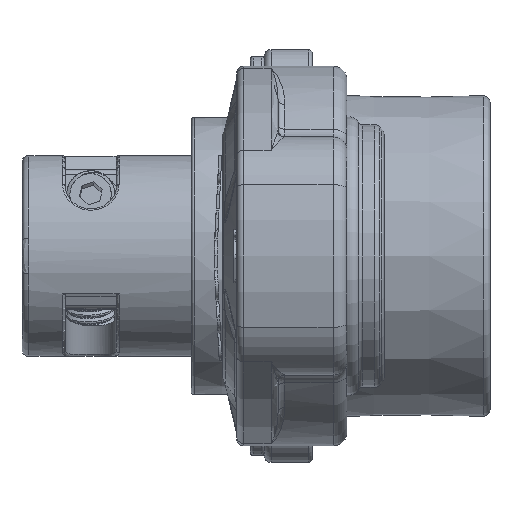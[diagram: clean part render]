
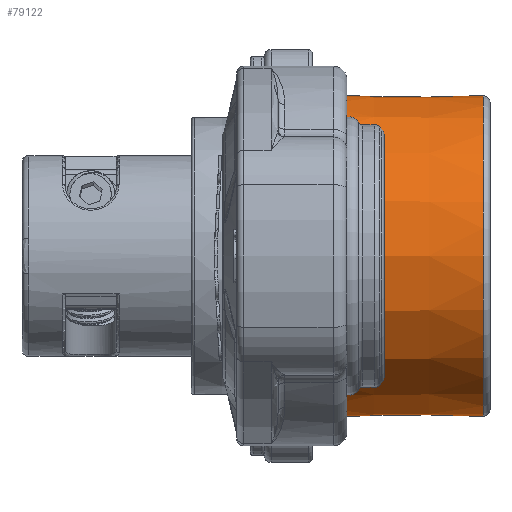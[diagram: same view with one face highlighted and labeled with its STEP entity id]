
A CAD part, front view. The second image highlights one B-rep face of the part: STEP entity #79122.
In plain terms, the highlighted conical face has half-angle 0.5 degrees and reference radius 11.65 mm.
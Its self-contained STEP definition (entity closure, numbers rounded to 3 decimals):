
#388 = AXIS2_PLACEMENT_3D ( 'NONE', #77128, #64198, #21836 ) ;
#479 = EDGE_CURVE ( 'NONE', #8552, #50969, #19193, .T. ) ;
#8409 = DIRECTION ( 'NONE',  ( 0., 0., -1. ) ) ;
#8552 = VERTEX_POINT ( 'NONE', #80820 ) ;
#9997 = EDGE_LOOP ( 'NONE', ( #19620, #55402, #54190, #27795 ) ) ;
#14771 = CARTESIAN_POINT ( 'NONE',  ( -2.631, 8.742, -7.735 ) ) ;
#15115 = CARTESIAN_POINT ( 'NONE',  ( -12.404, 8.786, 7.814 ) ) ;
#15496 = EDGE_CURVE ( 'NONE', #48621, #73097, #61765, .T. ) ;
#17251 = CARTESIAN_POINT ( 'NONE',  ( -10.269, 8.776, 7.797 ) ) ;
#18610 = CARTESIAN_POINT ( 'NONE',  ( -4.165, 8.749, 7.747 ) ) ;
#19193 = B_SPLINE_CURVE_WITH_KNOTS ( 'NONE', 3,
 ( #42395, #56236, #83879, #62700, #84332, #14771, #42830 ),
 .UNSPECIFIED., .F., .F.,
 ( 4, 3, 4 ),
 ( 0., 0.006, 0.012 ),
 .UNSPECIFIED. ) ;
#19620 = ORIENTED_EDGE ( 'NONE', *, *, #15496, .T. ) ;
#21836 = DIRECTION ( 'NONE',  ( 0., 0., 1. ) ) ;
#27795 = ORIENTED_EDGE ( 'NONE', *, *, #38478, .T. ) ;
#30399 = CIRCLE ( 'NONE', #86318, 11.654 ) ;
#35559 = DIRECTION ( 'NONE',  ( -1., 0., 0. ) ) ;
#38478 = EDGE_CURVE ( 'NONE', #50969, #48621, #30399, .T. ) ;
#42395 = CARTESIAN_POINT ( 'NONE',  ( -12.404, 8.786, -7.814 ) ) ;
#42830 = CARTESIAN_POINT ( 'NONE',  ( -0.496, 8.733, -7.718 ) ) ;
#47575 = AXIS2_PLACEMENT_3D ( 'NONE', #71978, #35559, #78866 ) ;
#48621 = VERTEX_POINT ( 'NONE', #86849 ) ;
#50762 = FACE_OUTER_BOUND ( 'NONE', #9997, .T. ) ;
#50969 = VERTEX_POINT ( 'NONE', #88041 ) ;
#52254 = CARTESIAN_POINT ( 'NONE',  ( -8.135, 8.767, 7.78 ) ) ;
#54190 = ORIENTED_EDGE ( 'NONE', *, *, #479, .T. ) ;
#55402 = ORIENTED_EDGE ( 'NONE', *, *, #58879, .T. ) ;
#56236 = CARTESIAN_POINT ( 'NONE',  ( -10.57, 8.778, -7.8 ) ) ;
#58879 = EDGE_CURVE ( 'NONE', #73097, #8552, #75449, .T. ) ;
#61765 = B_SPLINE_CURVE_WITH_KNOTS ( 'NONE', 3,
 ( #74810, #81690, #18610, #80351, #52254, #17251, #87722 ),
 .UNSPECIFIED., .F., .F.,
 ( 4, 3, 4 ),
 ( 0., 0.006, 0.012 ),
 .UNSPECIFIED. ) ;
#62700 = CARTESIAN_POINT ( 'NONE',  ( -6.9, 8.761, -7.77 ) ) ;
#64198 = DIRECTION ( 'NONE',  ( 1., 0., 0. ) ) ;
#71978 = CARTESIAN_POINT ( 'NONE',  ( 0., 0., 0. ) ) ;
#73097 = VERTEX_POINT ( 'NONE', #15115 ) ;
#73365 = CARTESIAN_POINT ( 'NONE',  ( -0.496, 0., 0. ) ) ;
#74810 = CARTESIAN_POINT ( 'NONE',  ( -0.496, 8.733, 7.718 ) ) ;
#75449 = CIRCLE ( 'NONE', #388, 11.758 ) ;
#77128 = CARTESIAN_POINT ( 'NONE',  ( -12.404, 0., 0. ) ) ;
#78430 = DIRECTION ( 'NONE',  ( -1., 0., 0. ) ) ;
#78866 = DIRECTION ( 'NONE',  ( 0., 0., 1. ) ) ;
#79122 = ADVANCED_FACE ( 'NONE', ( #50762 ), #81390, .T. ) ;
#80351 = CARTESIAN_POINT ( 'NONE',  ( -6., 8.757, 7.762 ) ) ;
#80820 = CARTESIAN_POINT ( 'NONE',  ( -12.404, 8.786, -7.814 ) ) ;
#81390 = CONICAL_SURFACE ( 'NONE', #47575, 11.65, 0.009 ) ;
#81690 = CARTESIAN_POINT ( 'NONE',  ( -2.33, 8.741, 7.733 ) ) ;
#83879 = CARTESIAN_POINT ( 'NONE',  ( -8.735, 8.77, -7.785 ) ) ;
#84332 = CARTESIAN_POINT ( 'NONE',  ( -4.765, 8.752, -7.752 ) ) ;
#86318 = AXIS2_PLACEMENT_3D ( 'NONE', #73365, #78430, #8409 ) ;
#86849 = CARTESIAN_POINT ( 'NONE',  ( -0.496, 8.733, 7.718 ) ) ;
#87722 = CARTESIAN_POINT ( 'NONE',  ( -12.404, 8.786, 7.814 ) ) ;
#88041 = CARTESIAN_POINT ( 'NONE',  ( -0.496, 8.733, -7.718 ) ) ;
